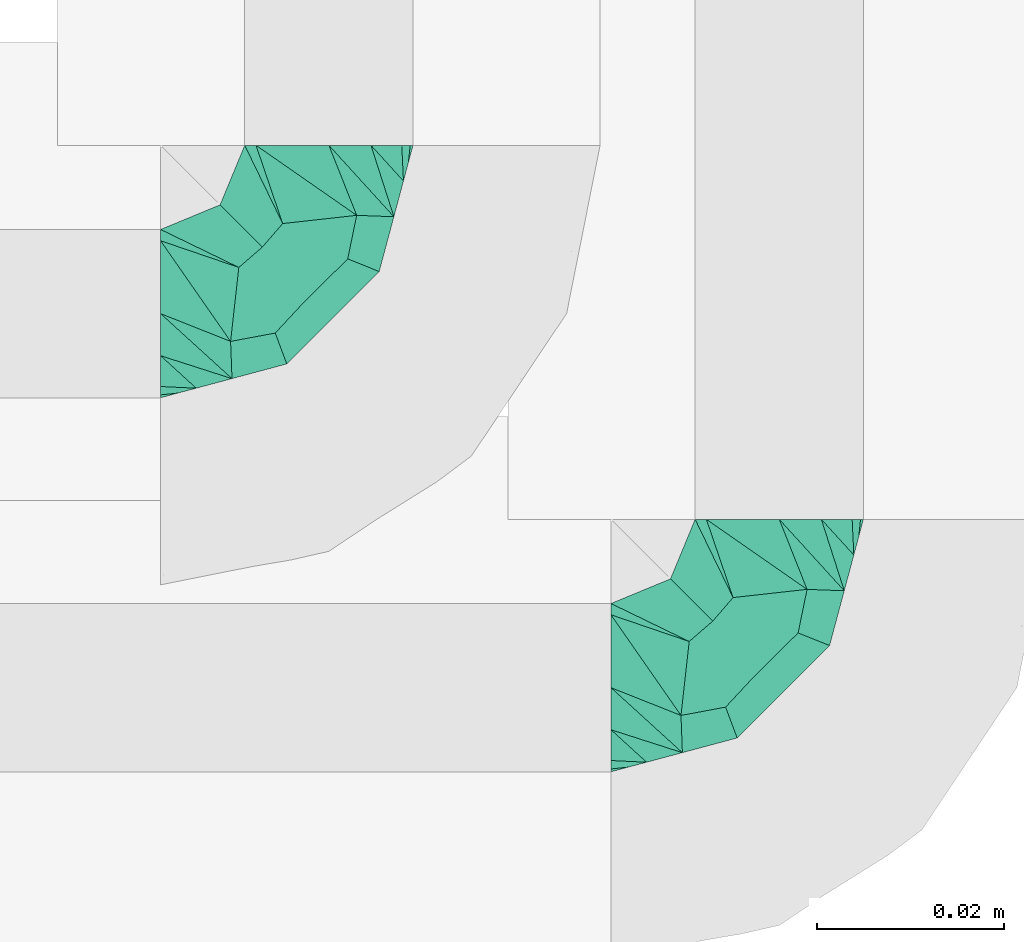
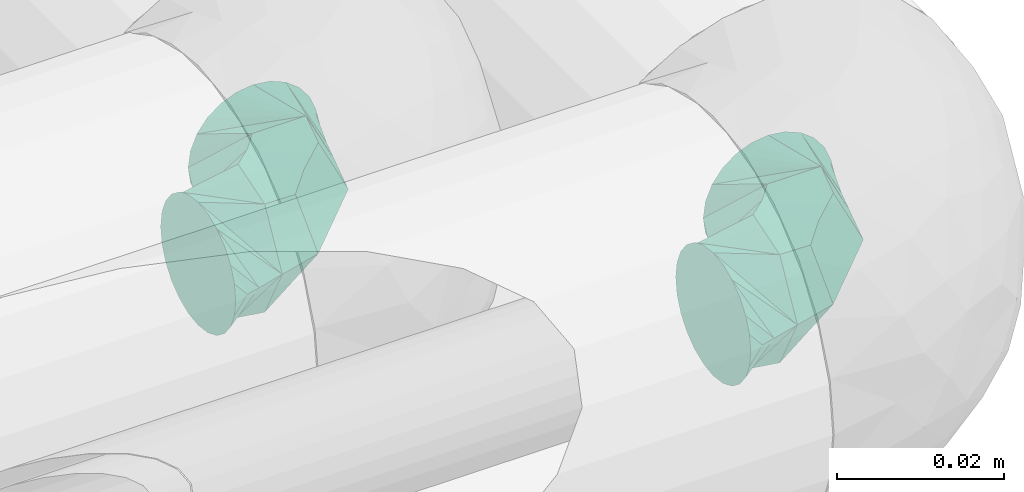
# One storey, part 9 of 13: 2 flow fittings.
"""IFC2X3 building model written with IfcOpenShell, lengths in millimetres."""

from ifc_helpers import new_model, entity, si_unit, converted_unit, derived_unit, direction, frame, origin_with_axes, place, context, subcontext, project, spatial, open_shell, surface_model, source, transform, mapped, type_object, element, save


model = new_model("IFC2X3")

# Units and contexts
model_context = context("Model", 3, precision=0.01, world=frame((0.0, 4.29681676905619e-09, 0.0)), true_north=direction((4.01073788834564e-13, 1.0)))
plan_context = context("Plan", 3, precision=0.01, world=frame((0.0, 4.29681676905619e-09, 0.0)), true_north=direction((4.01073788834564e-13, 1.0)))
body_context = subcontext(model_context, "Body", "Model", "MODEL_VIEW")
ifc_project = project(units=[converted_unit("PLANEANGLEUNIT", "DEGREE", entity("IfcPositiveLengthMeasure", 0.0174532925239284), si_unit("PLANEANGLEUNIT", "RADIAN"), dimensions=[0, 0, 0, 0, 0, 0, 0]), si_unit("AREAUNIT", "SQUARE_METRE"), si_unit("LENGTHUNIT", "METRE", prefix="MILLI"), si_unit("MASSUNIT", "GRAM", prefix="KILO"), si_unit("POWERUNIT", "WATT"), si_unit("PRESSUREUNIT", "PASCAL"), si_unit("FORCEUNIT", "NEWTON", prefix="KILO"), si_unit("ELECTRICVOLTAGEUNIT", "VOLT"), si_unit("ELECTRICCURRENTUNIT", "AMPERE"), si_unit("THERMODYNAMICTEMPERATUREUNIT", "DEGREE_CELSIUS"), si_unit("TIMEUNIT", "SECOND"), si_unit("VOLUMEUNIT", "CUBIC_METRE"), derived_unit("LINEARVELOCITYUNIT", [(si_unit("LENGTHUNIT", "METRE"), 1), (si_unit("TIMEUNIT", "SECOND"), -1)]), derived_unit("VOLUMETRICFLOWRATEUNIT", [(si_unit("VOLUMEUNIT", "CUBIC_METRE"), 1), (si_unit("TIMEUNIT", "SECOND"), -1)]), derived_unit("THERMALTRANSMITTANCEUNIT", [(si_unit("POWERUNIT", "WATT"), 1), (si_unit("THERMODYNAMICTEMPERATUREUNIT", "KELVIN"), -1), (si_unit("AREAUNIT", "SQUARE_METRE"), -1)]), derived_unit("SOUNDPRESSUREUNIT", [(si_unit("PRESSUREUNIT", "PASCAL"), 1)])], contexts=[model_context, plan_context])

# Site, building, storey
site_placement = place(None, frame((0.0, -4.29681676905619e-09, 0.0), z_axis=(0.0, 0.0, 1.0), x_axis=(1.0, 0.0, 0.0)))
site = spatial("IfcSite", under=ifc_project, at=site_placement, Name="ENGM", CompositionType="ELEMENT")
building_placement = place(site_placement, frame((0.0, 4.29681676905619e-09, 0.0), z_axis=(0.0, 0.0, 1.0), x_axis=(1.0, 0.0, 0.0)))
building = spatial("IfcBuilding", under=site, at=building_placement, Name="TI", CompositionType="ELEMENT")
storey_placement = place(building_placement, frame((0.0, 0.0, 210900.0), z_axis=(0.0, 0.0, 1.0), x_axis=(1.0, 0.0, 0.0)))
storey = spatial("IfcBuildingStorey", under=building, at=storey_placement, Name="Nivå F", CompositionType="ELEMENT", Elevation=210900.0)

# Flow fittings
pipe_fitting_type = type_object("IfcPipeFittingType", Name="magi_pipe_cu_elbow_short_001", PredefinedType="BEND")
shared_shape = source(origin_with_axes(), body_context, "Body", "SurfaceModel", [
    surface_model("IfcShellBasedSurfaceModel", [(-18.0, 4.5, -7.79423), (-18.0, 2.32937, -8.69333), (-18.0, 0.0, -9.0), (-18.0, -6.36396, -6.36396), (-18.0, 8.69333, -2.32937), (-18.0, 7.79423, -4.5), (-18.0, 6.36396, -6.36396), (-18.0, -4.5, -7.79423), (-18.0, -2.32937, -8.69333), (-18.0, -7.79423, -4.5), (-18.0, -8.69333, -2.32937), (-18.0, -9.0, 0.0), (-18.0, 8.69333, 2.32937), (-18.0, -7.79423, 4.5), (-18.0, 7.79423, 4.5), (-18.0, 6.36396, 6.36396), (-18.0, 2.32937, 8.69333), (-18.0, 4.5, 7.79423), (-18.0, 0.0, 9.0), (-18.0, -6.36396, 6.36396), (-18.0, -2.32937, 8.69333), (-18.0, -8.69333, 2.32937), (-18.0, -4.5, 7.79423), (-18.0, 9.0, 0.0), (0.0, 18.0, -9.0), (-2.32937, 18.0, -8.69333), (-4.5, 18.0, -7.79423), (6.36396, 18.0, -6.36396), (-6.36396, 18.0, -6.36396), (-7.79423, 18.0, -4.5), (-8.69333, 18.0, -2.32937), (9.0, 18.0, 0.0), (2.32937, 18.0, -8.69333), (4.5, 18.0, -7.79423), (8.69333, 18.0, -2.32937), (7.79423, 18.0, -4.5), (-8.69333, 18.0, 2.32937), (7.79423, 18.0, 4.5), (-6.36396, 18.0, 6.36396), (-7.79423, 18.0, 4.5), (-4.5, 18.0, 7.79423), (-2.32937, 18.0, 8.69333), (0.0, 18.0, 9.0), (2.32937, 18.0, 8.69333), (6.36396, 18.0, 6.36396), (8.69333, 18.0, 2.32937), (4.5, 18.0, 7.79423), (-9.0, 18.0, 0.0), (-16.09014, -8.48825, 0.0), (-10.51068, -2.97249, 7.92278), (-10.36056, -6.95302, 0.0), (-4.5, -5.38269, 0.0), (0.44134, -0.44134, 0.0), (2.91201, 2.02933, 0.0), (-2.70211, 1.18586, 7.65564), (-2.02933, -2.91201, 0.0), (-14.18028, -7.97651, 0.0), (-7.11648, 7.11648, 8.61373), (-4.93977, 9.63211, 8.64898), (2.97249, 10.51068, 7.92278), (2.01286, 5.84889, 7.1903), (5.38269, 4.5, 0.0), (-5.73616, -2.07922, 7.10204), (8.48825, 16.09014, 0.0), (7.97651, 14.18028, 0.0), (-9.63211, 4.93977, 8.64898), (-10.31802, 14.81802, 0.0), (-14.81802, 10.31802, 0.0), (-11.63604, 11.63604, 0.0), (6.95302, 10.36056, 0.0), (-10.51068, -2.97249, -7.92278), (-4.93977, 9.63211, -8.64898), (0.8585, 4.1248, -7.1903), (-2.68792, 2.14037, -8.03971), (2.97249, 10.51068, -7.92278), (-13.67048, 7.29638, -6.27272), (-8.50355, 2.18787, -8.98901), (-9.83427, 8.11209, -7.36254)], [open_shell([[[0, 1, 2]], [[0, 2, 3]], [[4, 5, 6]], [[0, 4, 6]], [[4, 0, 3]], [[7, 3, 8]], [[3, 2, 8]], [[9, 10, 3]], [[11, 3, 10]], [[3, 11, 4]], [[11, 12, 4]], [[13, 12, 11]], [[14, 12, 15]], [[16, 17, 15]], [[15, 12, 18]], [[16, 15, 18]], [[19, 20, 13]], [[13, 11, 21]], [[22, 20, 19]], [[18, 13, 20]], [[13, 18, 12]], [[23, 4, 12]], [[24, 25, 26]], [[27, 24, 26]], [[28, 29, 30]], [[28, 30, 26]], [[31, 26, 30]], [[32, 27, 33]], [[32, 24, 27]], [[27, 34, 35]], [[34, 27, 31]], [[26, 31, 27]], [[30, 36, 31]], [[31, 36, 37]], [[38, 36, 39]], [[38, 40, 41]], [[42, 36, 38]], [[42, 38, 41]], [[37, 43, 44]], [[45, 31, 37]], [[44, 43, 46]], [[43, 37, 42]], [[36, 42, 37]], [[36, 30, 47]], [[21, 48, 13]], [[49, 50, 51]], [[52, 53, 54]], [[54, 55, 52]], [[22, 19, 56]], [[13, 56, 19]], [[57, 54, 58]], [[22, 50, 20]], [[18, 20, 50]], [[59, 60, 61]], [[59, 58, 60]], [[55, 54, 62]], [[18, 50, 49]], [[18, 49, 16]], [[62, 49, 51]], [[62, 51, 55]], [[37, 63, 45]], [[49, 17, 16]], [[64, 63, 37]], [[12, 65, 23]], [[14, 15, 49]], [[54, 65, 62]], [[17, 49, 15]], [[58, 47, 66]], [[67, 57, 68]], [[53, 60, 54]], [[43, 42, 69]], [[69, 46, 43]], [[38, 59, 40]], [[41, 59, 42]], [[44, 46, 64]], [[68, 57, 66]], [[64, 46, 69]], [[61, 60, 53]], [[45, 63, 31]], [[59, 61, 69]], [[47, 58, 36]], [[22, 56, 50]], [[54, 57, 65]], [[49, 65, 14]], [[66, 57, 58]], [[64, 37, 44]], [[39, 36, 58]], [[14, 65, 12]], [[38, 39, 59]], [[21, 11, 48]], [[39, 58, 59]], [[48, 56, 13]], [[40, 59, 41]], [[59, 69, 42]], [[49, 62, 65]], [[57, 67, 65]], [[54, 60, 58]], [[67, 23, 65]], [[70, 50, 2]], [[71, 72, 73]], [[74, 71, 29]], [[70, 1, 0]], [[70, 51, 50]], [[34, 31, 63]], [[75, 6, 5]], [[75, 4, 23]], [[5, 4, 75]], [[51, 76, 55]], [[75, 23, 67]], [[70, 6, 75]], [[48, 11, 10]], [[7, 56, 3]], [[2, 50, 8]], [[51, 70, 76]], [[56, 7, 50]], [[7, 8, 50]], [[70, 2, 1]], [[66, 47, 71]], [[52, 72, 53]], [[6, 70, 0]], [[70, 75, 76]], [[73, 52, 55]], [[71, 68, 66]], [[61, 53, 72]], [[33, 64, 69]], [[30, 71, 47]], [[28, 74, 29]], [[56, 9, 3]], [[26, 25, 74]], [[63, 64, 35]], [[56, 48, 9]], [[26, 74, 28]], [[9, 48, 10]], [[24, 74, 25]], [[32, 69, 24]], [[29, 71, 30]], [[27, 64, 33]], [[69, 32, 33]], [[68, 71, 77]], [[74, 24, 69]], [[35, 34, 63]], [[61, 72, 74]], [[61, 74, 69]], [[67, 77, 75]], [[74, 72, 71]], [[35, 64, 27]], [[76, 77, 73]], [[75, 77, 76]], [[77, 71, 73]], [[55, 76, 73]], [[72, 52, 73]], [[77, 67, 68]]])]),
])
for number, where, z_axis, x_axis, name in (
    (1, (609069.65402, 697419.51267, 2700.0), (0.0, 0.0, 1.0), (1.0, 0.0, 0.0), "magi_pipe_cu_elbow_short_001"),
    (2, (609117.81817, 697379.51267, 2700.0), (0.0, 0.0, 1.0), (1.0, 0.0, 0.0), "magi_pipe_cu_elbow_short_001"),
):
    element("IfcFlowFitting", number, at=place(storey_placement, frame(where, z_axis=z_axis, x_axis=x_axis)), inside=storey, type_object=pipe_fitting_type, Name=name, context=body_context, shape_type="MappedRepresentation", body=[
        mapped(shared_shape, transform((0.0, 0.0, 0.0), scale=1.0)),
    ])

save(model, "model.ifc")
